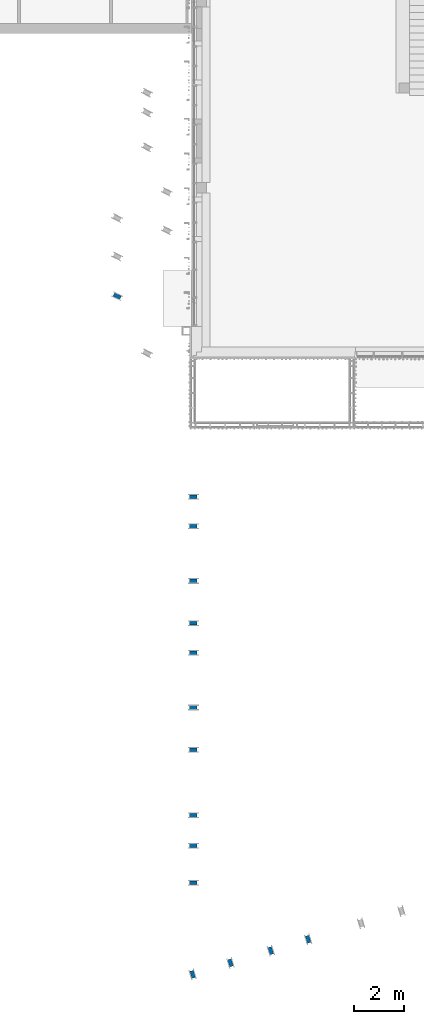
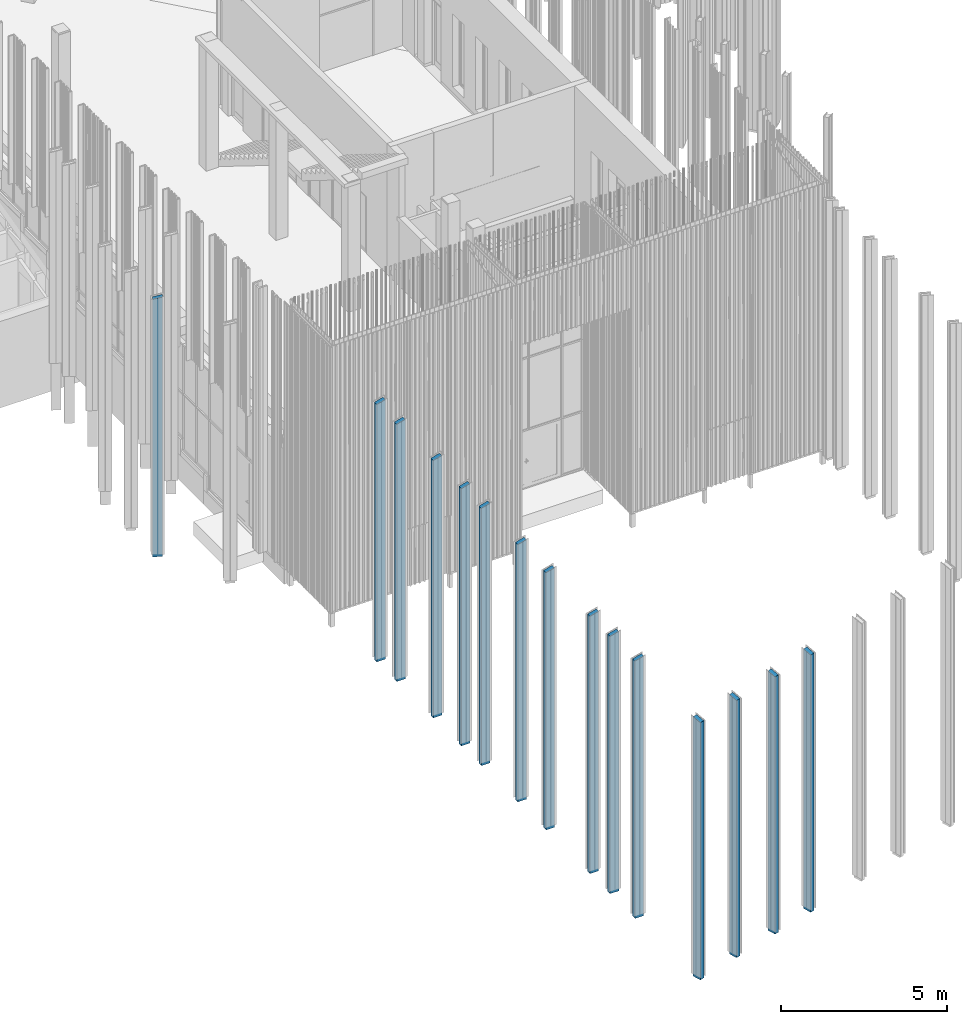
# One storey, part 1 of 390: 15 columns.
"""IFC2X3 building model written with IfcOpenShell, lengths in millimetres."""

from ifc_helpers import new_model, entity, si_unit, converted_unit, derived_unit, money_unit, direction, frame, origin_with_axes, place, context, subcontext, project, spatial, faceted_brep, source, transform, mapped, material, type_object, element, save


model = new_model("IFC2X3")

# Units and contexts
model_context = context("Model", 3, precision=1e-05, world=origin_with_axes(), true_north=direction((0.0, 1.0)))
body_context = subcontext(model_context, "Body", "Model", "MODEL_VIEW")
ifc_project = project(units=[si_unit("LENGTHUNIT", "METRE", prefix="MILLI"), si_unit("AREAUNIT", "SQUARE_METRE"), si_unit("VOLUMEUNIT", "CUBIC_METRE"), converted_unit("PLANEANGLEUNIT", "DEGREE", entity("IfcPlaneAngleMeasure", 0.0174532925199), si_unit("PLANEANGLEUNIT", "RADIAN"), dimensions=[0, 0, 0, 0, 0, 0, 0]), si_unit("SOLIDANGLEUNIT", "STERADIAN"), money_unit("EUR"), converted_unit("TIMEUNIT", "Year", entity("IfcTimeMeasure", 31556926.0), si_unit("TIMEUNIT", "SECOND"), dimensions=[0, 0, 1, 0, 0, 0, 0]), si_unit("MASSUNIT", "GRAM", prefix="KILO"), si_unit("THERMODYNAMICTEMPERATUREUNIT", "DEGREE_CELSIUS"), si_unit("LUMINOUSINTENSITYUNIT", "LUMEN"), si_unit("ENERGYUNIT", "JOULE", prefix="MEGA"), derived_unit("THERMALCONDUCTANCEUNIT", [(si_unit("POWERUNIT", "WATT"), 1), (si_unit("LENGTHUNIT", "METRE"), -1), (si_unit("THERMODYNAMICTEMPERATUREUNIT", "KELVIN"), -1)]), derived_unit("SPECIFICHEATCAPACITYUNIT", [(si_unit("ENERGYUNIT", "JOULE"), 1), (si_unit("MASSUNIT", "GRAM", prefix="KILO"), -1), (si_unit("THERMODYNAMICTEMPERATUREUNIT", "KELVIN"), -1)]), derived_unit("MASSDENSITYUNIT", [(si_unit("MASSUNIT", "GRAM", prefix="KILO"), 1), (si_unit("VOLUMEUNIT", "CUBIC_METRE"), -1)])], contexts=[model_context])

# Site, building, storey
site_placement = place(None, origin_with_axes())
site = spatial("IfcSite", under=ifc_project, at=site_placement, Name="Site", CompositionType="ELEMENT")
building_placement = place(site_placement, origin_with_axes())
building = spatial("IfcBuilding", under=site, at=building_placement, Name="Building", CompositionType="ELEMENT")
storey_placement = place(building_placement, origin_with_axes())
storey = spatial("IfcBuildingStorey", under=building, at=storey_placement, Name="1 korrus", CompositionType="ELEMENT", Elevation=0.0)

# Columns
ifc_material = material(Name="Teras (musta värvi)")
column_type = type_object("IfcColumnType", Name="Päikesevarjestuspost", PredefinedType="NOTDEFINED")
shared_shape = source(origin_with_axes(), body_context, "Body", "Brep", [
    faceted_brep([(162202.026399, 119507.779568, 9545.0), (162202.026399, 119507.779568, 0.0), (162350.908322, 119489.499166, 0.0), (162350.908322, 119489.499166, 9545.0), (162238.587202, 119805.543413, 9464.61524227), (162238.587202, 119805.543413, 0.0), (162387.469125, 119787.263012, 0.0), (162387.469125, 119787.263012, 9464.61524227)], [[[0, 1, 2, 3]], [[1, 0, 4, 5]], [[1, 5, 6, 2]], [[3, 2, 6, 7]], [[4, 0, 3, 7]], [[5, 4, 7, 6]]]),
])
for number, where, z_axis, x_axis in (
    (1, (261109.441137, -115283.662465, 0.0), (0.0, 0.0, 1.0), (-0.121869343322, 0.992546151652, 0.0)),
    (2, (176423.819958, -145627.598652, 0.0), (0.0, 0.0, 1.0), (0.342020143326, 0.939692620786, 0.0)),
    (3, (261109.441179, -122348.662465, 0.0), (0.0, 0.0, 1.0), (-0.121869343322, 0.992546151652, 0.0)),
    (4, (261109.441176, -120848.662465, 0.0), (0.0, 0.0, 1.0), (-0.121869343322, 0.992546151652, 0.0)),
    (5, (261109.441174, -119634.043718, 0.0), (0.0, 0.0, 1.0), (-0.121869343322, 0.992546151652, 0.0)),
    (6, (261109.441135, -116983.662465, 0.0), (0.0, 0.0, 1.0), (-0.121869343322, 0.992546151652, 0.0)),
    (7, (261109.441147, -106783.662465, 0.0), (0.0, 0.0, 1.0), (-0.121869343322, 0.992546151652, 0.0)),
    (8, (261109.441146, -107983.662465, 0.0), (0.0, 0.0, 1.0), (-0.121869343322, 0.992546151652, 0.0)),
    (9, (261109.441143, -110183.662465, 0.0), (0.0, 0.0, 1.0), (-0.121869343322, 0.992546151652, 0.0)),
    (10, (261109.441141, -111883.662465, 0.0), (0.0, 0.0, 1.0), (-0.121869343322, 0.992546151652, 0.0)),
    (11, (261109.44114, -113083.662465, 0.0), (0.0, 0.0, 1.0), (-0.121869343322, 0.992546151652, 0.0)),
    (12, (222491.660796, 195576.478839, 0.0), (0.0, 0.0, 1.0), (-0.914362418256, -0.404896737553, 0.0)),
    (13, (224018.916698, 196040.047948, 0.0), (0.0, 0.0, 1.0), (-0.914362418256, -0.404896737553, 0.0)),
    (14, (225644.126622, 196533.349113, 0.0), (0.0, 0.0, 1.0), (-0.914362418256, -0.404896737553, 0.0)),
    (15, (227149.110403, 196990.157949, 0.0), (0.0, 0.0, 1.0), (-0.914362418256, -0.404896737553, 0.0)),
):
    element("IfcColumn", number, at=place(storey_placement, frame(where, z_axis=z_axis, x_axis=x_axis)), inside=storey, type_object=column_type, material=ifc_material, Name="Teras (musta värvi)", ObjectType="Teras (musta värvi)", context=body_context, shape_type="MappedRepresentation", body=[
        mapped(shared_shape, transform((0.0, 0.0, 0.0))),
    ])

save(model, "model.ifc")
